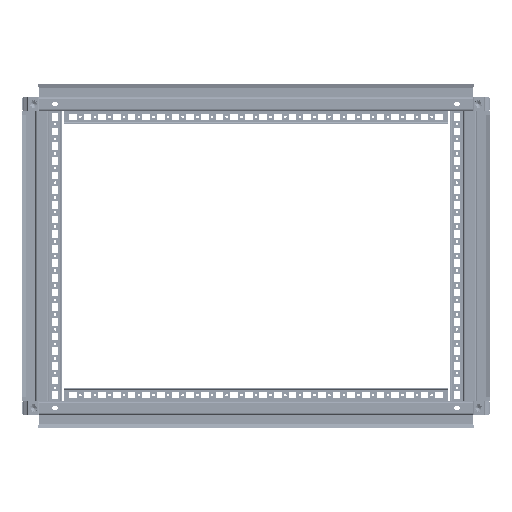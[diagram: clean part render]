
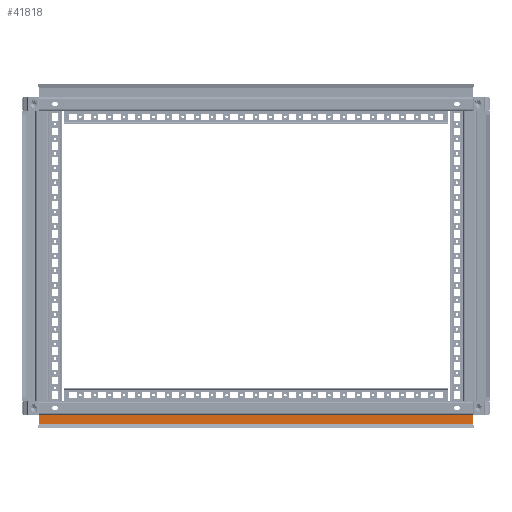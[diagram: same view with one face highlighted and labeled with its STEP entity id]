
A CAD part, front view. The second image highlights one B-rep face of the part: STEP entity #41818.
In plain terms, the highlighted planar face has unit normal (0, -1, 0) as drawn and (-1, 0, 0) by its records, which use the part's own axes.
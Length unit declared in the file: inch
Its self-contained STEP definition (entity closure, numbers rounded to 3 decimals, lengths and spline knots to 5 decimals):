
#19072 = EDGE_CURVE ( 'NONE', #39588, #39256, #42158, .T. ) ;
#37629 = VERTEX_POINT ( 'NONE', #46962 ) ;
#37634 = EDGE_CURVE ( 'NONE', #37635, #37629, #47089, .T. ) ;
#37635 = VERTEX_POINT ( 'NONE', #47082 ) ;
#39256 = VERTEX_POINT ( 'NONE', #49381 ) ;
#39588 = VERTEX_POINT ( 'NONE', #52972 ) ;
#41786 = ORIENTED_EDGE ( 'NONE', *, *, #37634, .T. ) ;
#41790 = ORIENTED_EDGE ( 'NONE', *, *, #41793, .F. ) ;
#41793 = EDGE_CURVE ( 'NONE', #39588, #37629, #54849, .T. ) ;
#41818 = ADVANCED_FACE ( 'NONE', ( #54833 ), #54832, .F. ) ;
#41819 = EDGE_LOOP ( 'NONE', ( #43029, #41786, #41790, #42965 ) ) ;
#42154 = DIRECTION ( 'NONE',  ( 0., 1., 0. ) ) ;
#42155 = VECTOR ( 'NONE', #42154, 39.37008 ) ;
#42156 = CARTESIAN_POINT ( 'NONE',  ( 1.03543, -0.35433, 14.58661 ) ) ;
#42158 = LINE ( 'NONE', #42156, #42155 ) ;
#42960 = EDGE_CURVE ( 'NONE', #39256, #37635, #54927, .T. ) ;
#42965 = ORIENTED_EDGE ( 'NONE', *, *, #19072, .T. ) ;
#43029 = ORIENTED_EDGE ( 'NONE', *, *, #42960, .T. ) ;
#46962 = CARTESIAN_POINT ( 'NONE',  ( 1.03543, -1.05606, -14.58661 ) ) ;
#47082 = CARTESIAN_POINT ( 'NONE',  ( 1.03543, -0.49213, -14.58661 ) ) ;
#47084 = DIRECTION ( 'NONE',  ( 0., -1., 0. ) ) ;
#47086 = VECTOR ( 'NONE', #47084, 39.37008 ) ;
#47088 = CARTESIAN_POINT ( 'NONE',  ( 1.03543, -0.35433, -14.58661 ) ) ;
#47089 = LINE ( 'NONE', #47088, #47086 ) ;
#49381 = CARTESIAN_POINT ( 'NONE',  ( 1.03543, -0.49213, 14.58661 ) ) ;
#52972 = CARTESIAN_POINT ( 'NONE',  ( 1.03543, -1.05606, 14.58661 ) ) ;
#54828 = DIRECTION ( 'NONE',  ( 0., 1., 0. ) ) ;
#54829 = DIRECTION ( 'NONE',  ( 1., 0., 0. ) ) ;
#54830 = CARTESIAN_POINT ( 'NONE',  ( 1.03543, -0.35433, 14.68504 ) ) ;
#54831 = AXIS2_PLACEMENT_3D ( 'NONE', #54830, #54829, #54828 ) ;
#54832 = PLANE ( 'NONE',  #54831 ) ;
#54833 = FACE_OUTER_BOUND ( 'NONE', #41819, .T. ) ;
#54846 = DIRECTION ( 'NONE',  ( 0., 0., -1. ) ) ;
#54847 = VECTOR ( 'NONE', #54846, 39.37008 ) ;
#54848 = CARTESIAN_POINT ( 'NONE',  ( 1.03543, -1.05606, 14.68504 ) ) ;
#54849 = LINE ( 'NONE', #54848, #54847 ) ;
#54924 = DIRECTION ( 'NONE',  ( 0., 0., -1. ) ) ;
#54925 = VECTOR ( 'NONE', #54924, 39.37008 ) ;
#54926 = CARTESIAN_POINT ( 'NONE',  ( 1.03543, -0.49213, 14.68504 ) ) ;
#54927 = LINE ( 'NONE', #54926, #54925 ) ;
